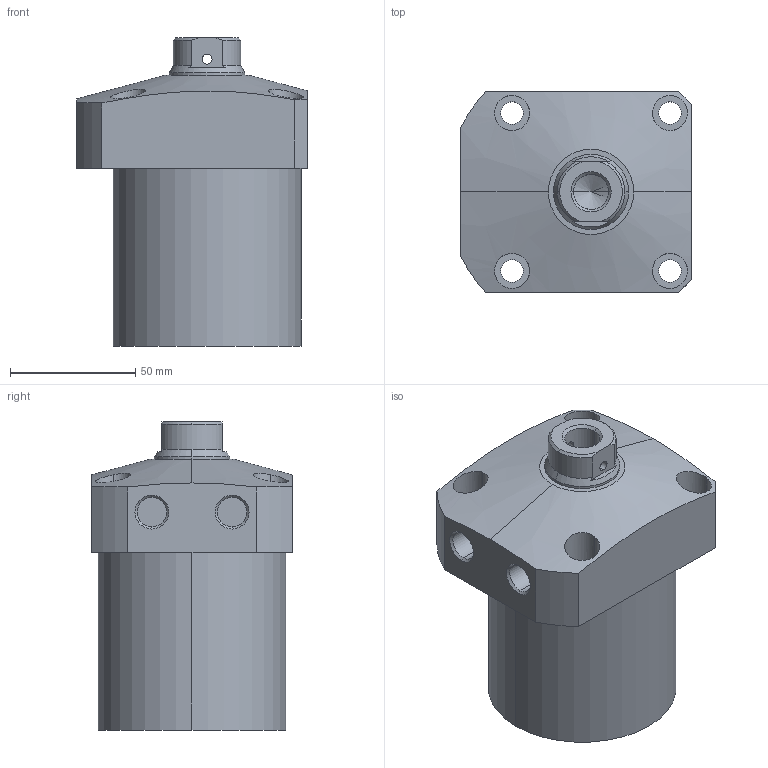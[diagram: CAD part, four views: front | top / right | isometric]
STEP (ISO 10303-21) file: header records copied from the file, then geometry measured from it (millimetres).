
FILE_DESCRIPTION (( 'STEP AP203' ), '1' );
FILE_NAME ('CLL-075CB-055.STEP', '2019-12-20T07:12:40', ( '' ), ( '' ), 'SwSTEP 2.0', 'SolidWorks 2015', '' );
FILE_SCHEMA (( 'CONFIG_CONTROL_DESIGN' ));
Length unit declared in the file: millimetre
Products named in the file (1): CLL-075CB-055
Bounding box: 92 x 80 x 123 mm (x, y, z)
Volume: 536239.1 mm3; surface area: 48083.6 mm2
Topology: 1 solids, 1 shells, 76 faces, 181 edges, 116 vertices
Faces by surface type: cylinder 39, plane 22, cone 15
Entity records: 2809 total; most frequent: CARTESIAN_POINT 932, DIRECTION 386, ORIENTED_EDGE 358, EDGE_CURVE 179, AXIS2_PLACEMENT_3D 158, VERTEX_POINT 116, EDGE_LOOP 99, CIRCLE 81
